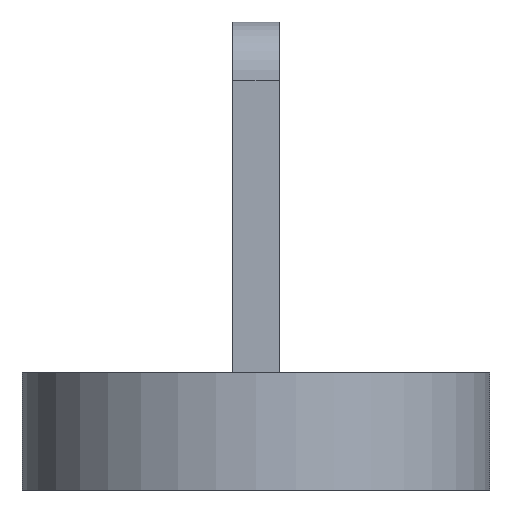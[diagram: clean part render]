
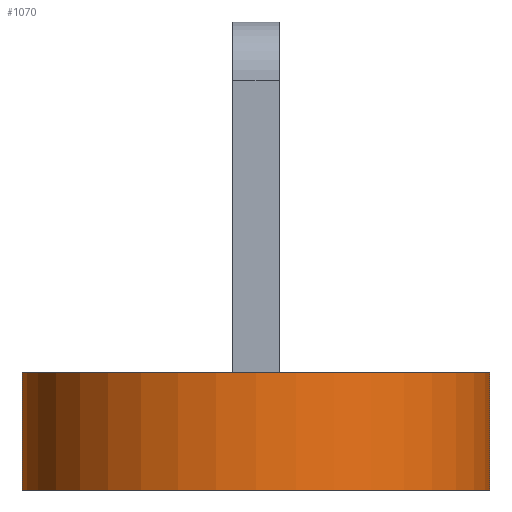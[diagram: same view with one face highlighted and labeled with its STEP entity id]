
A CAD part, left-side view. The second image highlights one B-rep face of the part: STEP entity #1070.
In plain terms, the highlighted cylindrical face has radius 20 mm (diameter 40 mm), a partial arc.
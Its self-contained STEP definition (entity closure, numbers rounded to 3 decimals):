
#33=FACE_OUTER_BOUND('',#92,.T.);
#92=EDGE_LOOP('',(#713,#714,#715,#716));
#163=LINE('',#1748,#230);
#164=LINE('',#1753,#231);
#230=VECTOR('',#1350,10.);
#231=VECTOR('',#1355,10.);
#288=CIRCLE('',#1154,20.);
#289=CIRCLE('',#1155,20.);
#400=VERTEX_POINT('',#1744);
#401=VERTEX_POINT('',#1746);
#402=VERTEX_POINT('',#1750);
#403=VERTEX_POINT('',#1752);
#523=EDGE_CURVE('',#401,#400,#163,.T.);
#525=EDGE_CURVE('',#402,#403,#164,.T.);
#527=EDGE_CURVE('',#401,#403,#288,.T.);
#528=EDGE_CURVE('',#400,#402,#289,.T.);
#713=ORIENTED_EDGE('',*,*,#523,.F.);
#714=ORIENTED_EDGE('',*,*,#527,.T.);
#715=ORIENTED_EDGE('',*,*,#525,.F.);
#716=ORIENTED_EDGE('',*,*,#528,.F.);
#1014=CYLINDRICAL_SURFACE('',#1153,20.);
#1070=ADVANCED_FACE('',(#33),#1014,.T.);
#1153=AXIS2_PLACEMENT_3D('',#1755,#1358,#1359);
#1154=AXIS2_PLACEMENT_3D('',#1756,#1360,#1361);
#1155=AXIS2_PLACEMENT_3D('',#1757,#1362,#1363);
#1350=DIRECTION('',(0.,0.,1.));
#1355=DIRECTION('',(0.,0.,-1.));
#1358=DIRECTION('center_axis',(0.,0.,1.));
#1359=DIRECTION('ref_axis',(-1.,0.,0.));
#1360=DIRECTION('center_axis',(0.,0.,1.));
#1361=DIRECTION('ref_axis',(1.,0.,0.));
#1362=DIRECTION('center_axis',(0.,0.,1.));
#1363=DIRECTION('ref_axis',(1.,0.,0.));
#1744=CARTESIAN_POINT('',(18.33,8.,10.));
#1746=CARTESIAN_POINT('',(18.33,8.,0.));
#1748=CARTESIAN_POINT('',(18.33,8.,0.));
#1750=CARTESIAN_POINT('',(18.33,-8.,10.));
#1752=CARTESIAN_POINT('',(18.33,-8.,0.));
#1753=CARTESIAN_POINT('',(18.33,-8.,0.));
#1755=CARTESIAN_POINT('Origin',(0.,0.,0.));
#1756=CARTESIAN_POINT('Origin',(0.,0.,0.));
#1757=CARTESIAN_POINT('Origin',(0.,0.,10.));
